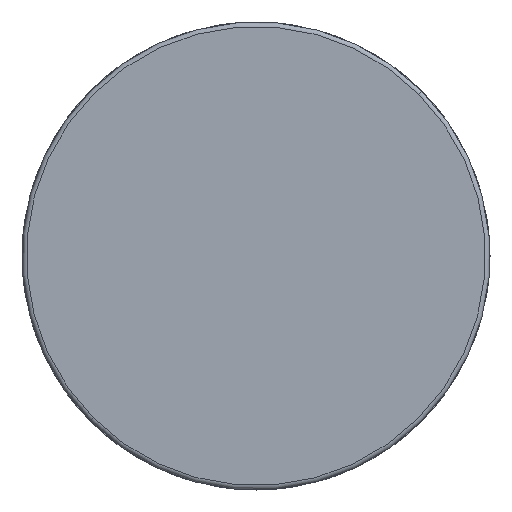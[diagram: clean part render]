
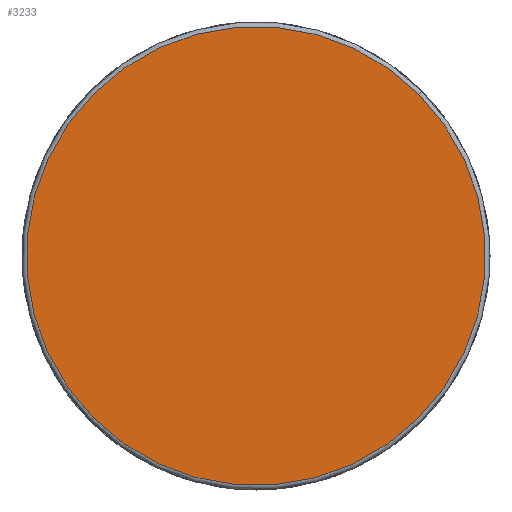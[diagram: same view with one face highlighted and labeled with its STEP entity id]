
A CAD part, front view. The second image highlights one B-rep face of the part: STEP entity #3233.
In plain terms, the highlighted planar face has unit normal (0, -1, 0) as drawn and (0, 0, 1) by its records, which use the part's own axes.
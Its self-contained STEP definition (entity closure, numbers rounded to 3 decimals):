
#11 = ORIENTED_EDGE ( 'NONE', *, *, #28, .T. ) ;
#28 = EDGE_CURVE ( 'NONE', #681, #2191, #3813, .T. ) ;
#564 = CARTESIAN_POINT ( 'NONE',  ( 25.5, 0., 110. ) ) ;
#681 = VERTEX_POINT ( 'NONE', #564 ) ;
#931 = EDGE_CURVE ( 'NONE', #2191, #681, #4063, .T. ) ;
#1245 = ORIENTED_EDGE ( 'NONE', *, *, #931, .T. ) ;
#1416 = DIRECTION ( 'NONE',  ( 1., 0., 0. ) ) ;
#1597 = DIRECTION ( 'NONE',  ( 0., 0., 1. ) ) ;
#1987 = AXIS2_PLACEMENT_3D ( 'NONE', #4604, #3398, #1416 ) ;
#2134 = AXIS2_PLACEMENT_3D ( 'NONE', #2546, #2165, #3762 ) ;
#2165 = DIRECTION ( 'NONE',  ( 0., 0., 1. ) ) ;
#2191 = VERTEX_POINT ( 'NONE', #2616 ) ;
#2226 = AXIS2_PLACEMENT_3D ( 'NONE', #4699, #1597, #5161 ) ;
#2546 = CARTESIAN_POINT ( 'NONE',  ( 0., 0., 110. ) ) ;
#2616 = CARTESIAN_POINT ( 'NONE',  ( -25.5, 0., 110. ) ) ;
#3233 = ADVANCED_FACE ( 'NONE', ( #4532 ), #4170, .T. ) ;
#3321 = EDGE_LOOP ( 'NONE', ( #11, #1245 ) ) ;
#3398 = DIRECTION ( 'NONE',  ( 0., 0., 1. ) ) ;
#3762 = DIRECTION ( 'NONE',  ( 1., 0., 0. ) ) ;
#3813 = CIRCLE ( 'NONE', #2226, 25.5 ) ;
#4063 = CIRCLE ( 'NONE', #1987, 25.5 ) ;
#4170 = PLANE ( 'NONE',  #2134 ) ;
#4532 = FACE_OUTER_BOUND ( 'NONE', #3321, .T. ) ;
#4604 = CARTESIAN_POINT ( 'NONE',  ( 0., 0., 110. ) ) ;
#4699 = CARTESIAN_POINT ( 'NONE',  ( 0., 0., 110. ) ) ;
#5161 = DIRECTION ( 'NONE',  ( 1., 0., 0. ) ) ;
